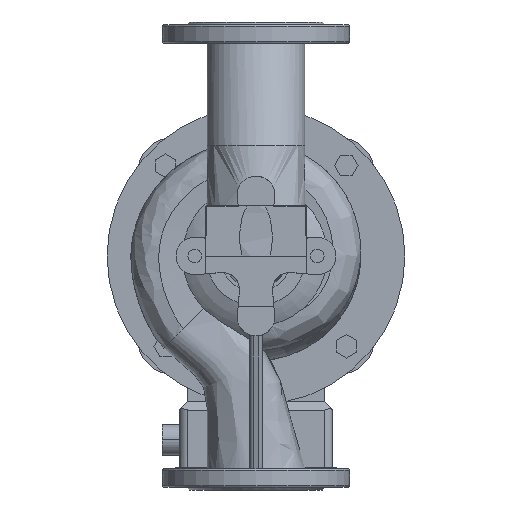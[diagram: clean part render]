
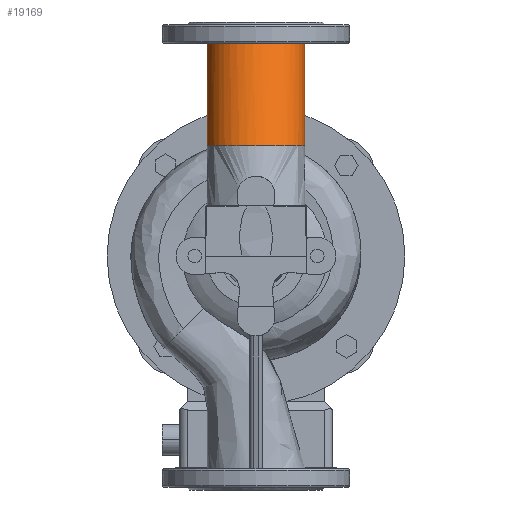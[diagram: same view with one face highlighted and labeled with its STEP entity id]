
A CAD part, front view. The second image highlights one B-rep face of the part: STEP entity #19169.
In plain terms, the highlighted free-form (B-spline) face has degree [3, 1] with [7, 2] control points.
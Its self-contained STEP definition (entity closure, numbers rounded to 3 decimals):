
#191 = CARTESIAN_POINT ( 'NONE',  ( -57.5, -171.148, 129.591 ) ) ;
#1176 = VERTEX_POINT ( 'NONE', #3081 ) ;
#2458 = CARTESIAN_POINT ( 'NONE',  ( 57.5, -56.148, 129.591 ) ) ;
#2696 = CARTESIAN_POINT ( 'NONE',  ( -57.5, -56.148, 129.591 ) ) ;
#3081 = CARTESIAN_POINT ( 'NONE',  ( 57.5, -56.148, 129.591 ) ) ;
#3157 =( BOUNDED_CURVE ( )  B_SPLINE_CURVE ( 3, ( #19240, #19393, #16725, #4811 ),
 .UNSPECIFIED., .F., .F. ) 
 B_SPLINE_CURVE_WITH_KNOTS ( ( 4, 4 ),
 ( 0.082, 0.262 ),
 .UNSPECIFIED. ) 
 CURVE ( )  GEOMETRIC_REPRESENTATION_ITEM ( )  RATIONAL_B_SPLINE_CURVE ( ( 1., 0.333, 0.333, 1. ) ) 
 REPRESENTATION_ITEM ( '' )  );
#3857 = B_SPLINE_CURVE_WITH_KNOTS ( 'NONE', 1,
 ( #4920, #19350 ),
 .UNSPECIFIED., .F., .F.,
 ( 2, 2 ),
 ( 0., 1. ),
 .UNSPECIFIED. ) ;
#3978 = ORIENTED_EDGE ( 'NONE', *, *, #26453, .T. ) ;
#4811 = CARTESIAN_POINT ( 'NONE',  ( -57.5, 0., 250. ) ) ;
#4893 = CARTESIAN_POINT ( 'NONE',  ( 57.5, 115., 250. ) ) ;
#4920 = CARTESIAN_POINT ( 'NONE',  ( -57.5, -56.148, 129.591 ) ) ;
#5204 = CARTESIAN_POINT ( 'NONE',  ( -57.5, 0., 250. ) ) ;
#5622 = EDGE_CURVE ( 'NONE', #28999, #20005, #3157, .T. ) ;
#6938 = CARTESIAN_POINT ( 'NONE',  ( 57.5, -115., 250. ) ) ;
#7399 = DIRECTION ( 'NONE',  ( 0., 0., -1. ) ) ;
#9761 = CARTESIAN_POINT ( 'NONE',  ( 57.5, -56.148, 129.591 ) ) ;
#9837 = EDGE_LOOP ( 'NONE', ( #24473, #3978, #29433, #29033 ) ) ;
#9912 = CARTESIAN_POINT ( 'NONE',  ( 57.5, -171.148, 129.591 ) ) ;
#13647 = CIRCLE ( 'NONE', #20698, 57.5 ) ;
#14463 = CARTESIAN_POINT ( 'NONE',  ( 57.5, 0., 250. ) ) ;
#14774 = CARTESIAN_POINT ( 'NONE',  ( -57.5, 58.852, 129.591 ) ) ;
#15914 = B_SPLINE_CURVE_WITH_KNOTS ( 'NONE', 1,
 ( #2458, #21122 ),
 .UNSPECIFIED., .F., .F.,
 ( 2, 2 ),
 ( 0., 1. ),
 .UNSPECIFIED. ) ;
#16337 = CARTESIAN_POINT ( 'NONE',  ( -57.5, -56.148, 129.591 ) ) ;
#16448 = EDGE_CURVE ( 'NONE', #16795, #20005, #3857, .T. ) ;
#16725 = CARTESIAN_POINT ( 'NONE',  ( -57.5, -115., 250. ) ) ;
#16795 = VERTEX_POINT ( 'NONE', #16337 ) ;
#16807 = CARTESIAN_POINT ( 'NONE',  ( -57.5, 0., 250. ) ) ;
#17277 = CARTESIAN_POINT ( 'NONE',  ( 0., -56.148, 129.591 ) ) ;
#19169 = ADVANCED_FACE ( 'NONE', ( #26369 ), #27610, .F. ) ;
#19240 = CARTESIAN_POINT ( 'NONE',  ( 57.5, 0., 250. ) ) ;
#19350 = CARTESIAN_POINT ( 'NONE',  ( -57.5, 0., 250. ) ) ;
#19393 = CARTESIAN_POINT ( 'NONE',  ( 57.5, -115., 250. ) ) ;
#19470 = CARTESIAN_POINT ( 'NONE',  ( -57.5, -115., 250. ) ) ;
#20005 = VERTEX_POINT ( 'NONE', #23602 ) ;
#20698 = AXIS2_PLACEMENT_3D ( 'NONE', #17277, #7399, #26366 ) ;
#21122 = CARTESIAN_POINT ( 'NONE',  ( 57.5, 0., 250. ) ) ;
#23602 = CARTESIAN_POINT ( 'NONE',  ( -57.5, 0., 250. ) ) ;
#23866 = CARTESIAN_POINT ( 'NONE',  ( 57.5, 58.852, 129.591 ) ) ;
#24473 = ORIENTED_EDGE ( 'NONE', *, *, #26092, .F. ) ;
#24838 = CARTESIAN_POINT ( 'NONE',  ( 57.5, 0., 250. ) ) ;
#26061 = CARTESIAN_POINT ( 'NONE',  ( -57.5, -56.148, 129.591 ) ) ;
#26092 = EDGE_CURVE ( 'NONE', #1176, #16795, #13647, .T. ) ;
#26208 = CARTESIAN_POINT ( 'NONE',  ( -57.5, 115., 250. ) ) ;
#26366 = DIRECTION ( 'NONE',  ( -1., 0., 0. ) ) ;
#26369 = FACE_OUTER_BOUND ( 'NONE', #9837, .T. ) ;
#26453 = EDGE_CURVE ( 'NONE', #1176, #28999, #15914, .T. ) ;
#27610 =( BOUNDED_SURFACE ( )  B_SPLINE_SURFACE ( 3, 1, ( 
 ( #2696, #16807 ),
 ( #14774, #26208 ),
 ( #23866, #4893 ),
 ( #9761, #14463 ),
 ( #9912, #6938 ),
 ( #191, #19470 ),
 ( #26061, #5204 ) ),
 .UNSPECIFIED., .T., .F., .F. ) 
 B_SPLINE_SURFACE_WITH_KNOTS ( ( 4, 3, 4 ),
 ( 2, 2 ),
 ( 0., 0.5, 1. ),
 ( 0., 1. ),
 .UNSPECIFIED. ) 
 GEOMETRIC_REPRESENTATION_ITEM ( )  RATIONAL_B_SPLINE_SURFACE ( (
 ( 1., 1.),
 ( 0.333, 0.333),
 ( 0.333, 0.333),
 ( 1., 1.),
 ( 0.333, 0.333),
 ( 0.333, 0.333),
 ( 1., 1.) ) ) 
 REPRESENTATION_ITEM ( '' )  SURFACE ( )  );
#28999 = VERTEX_POINT ( 'NONE', #24838 ) ;
#29033 = ORIENTED_EDGE ( 'NONE', *, *, #16448, .F. ) ;
#29433 = ORIENTED_EDGE ( 'NONE', *, *, #5622, .T. ) ;
